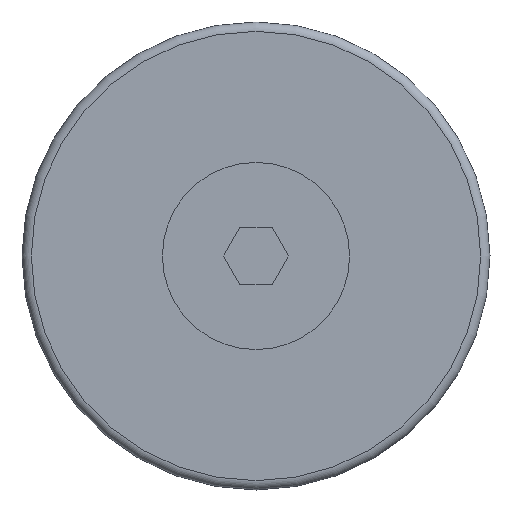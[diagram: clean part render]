
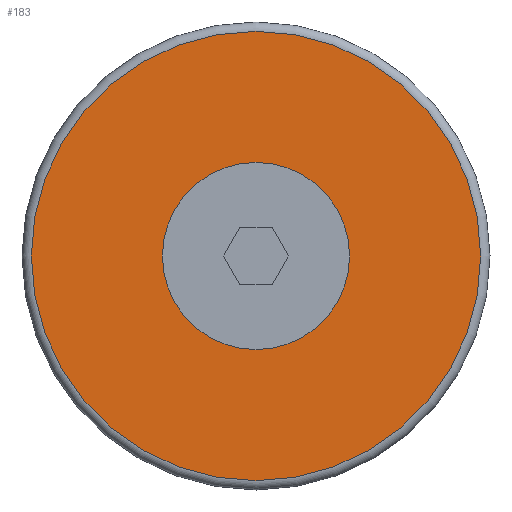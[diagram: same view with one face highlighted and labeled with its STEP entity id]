
A CAD part, front view. The second image highlights one B-rep face of the part: STEP entity #183.
In plain terms, the highlighted planar face has unit normal (0, -1, 0).
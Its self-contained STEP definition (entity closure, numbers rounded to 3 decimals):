
#183=ADVANCED_FACE('',(#264,#265),#266,.F.);
#264=FACE_OUTER_BOUND('',#403,.T.);
#265=FACE_BOUND('',#404,.T.);
#266=PLANE('',#405);
#403=EDGE_LOOP('',(#592));
#404=EDGE_LOOP('',(#593));
#405=AXIS2_PLACEMENT_3D('',#594,#595,#596);
#592=ORIENTED_EDGE('',*,*,#949,.F.);
#593=ORIENTED_EDGE('',*,*,#950,.T.);
#594=CARTESIAN_POINT('',(-5.,-16.0,0.));
#595=DIRECTION('',(0.0,1.0,0.0));
#596=DIRECTION('',(0.0,0.0,1.0));
#949=EDGE_CURVE('',#1095,#1095,#1096,.T.);
#950=EDGE_CURVE('',#1097,#1097,#1098,.T.);
#1095=VERTEX_POINT('',#1314);
#1096=CIRCLE('',#1315,12.);
#1097=VERTEX_POINT('',#1316);
#1098=CIRCLE('',#1317,5.);
#1314=CARTESIAN_POINT('',(0.,-16.0,12.));
#1315=AXIS2_PLACEMENT_3D('',#1653,#1654,#1655);
#1316=CARTESIAN_POINT('',(0.,-16.0,5.));
#1317=AXIS2_PLACEMENT_3D('',#1656,#1657,#1658);
#1653=CARTESIAN_POINT('',(0.,-16.0,0.));
#1654=DIRECTION('',(0.0,1.0,0.0));
#1655=DIRECTION('',(0.0,0.0,1.0));
#1656=CARTESIAN_POINT('',(0.,-16.0,0.));
#1657=DIRECTION('',(0.0,1.0,0.0));
#1658=DIRECTION('',(0.0,0.0,1.0));
